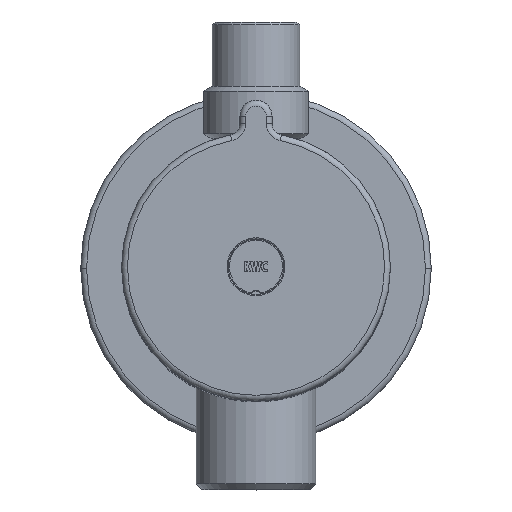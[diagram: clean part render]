
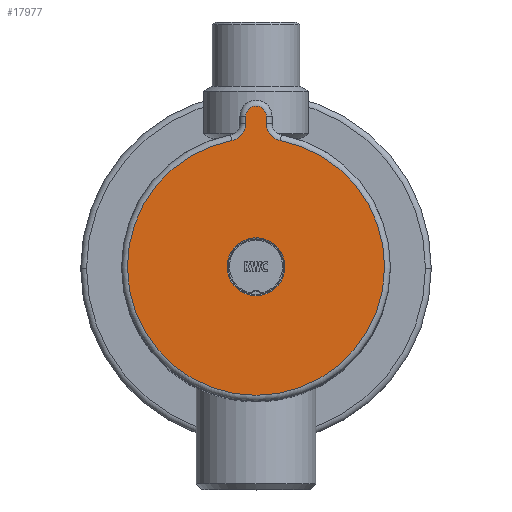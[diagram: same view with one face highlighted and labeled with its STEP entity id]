
A CAD part, top view. The second image highlights one B-rep face of the part: STEP entity #17977.
In plain terms, the highlighted planar face has unit normal (0, 0, 1).
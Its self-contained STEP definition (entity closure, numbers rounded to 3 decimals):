
#13177=CARTESIAN_POINT('',(0.,0.,75.8));
#13178=DIRECTION('',(0.,0.,-1.));
#13179=DIRECTION('',(0.19,0.982,0.));
#13180=AXIS2_PLACEMENT_3D('',#13177,#13178,#13179);
#13182=CARTESIAN_POINT('',(-4.75,24.545,75.8));
#13183=DIRECTION('',(0.,0.,1.));
#13184=DIRECTION('',(0.19,-0.982,0.));
#13185=AXIS2_PLACEMENT_3D('',#13182,#13183,#13184);
#13187=DIRECTION('',(0.,1.,0.));
#13188=VECTOR('',#13187,1.205);
#13189=CARTESIAN_POINT('',(-1.75,24.545,75.8));
#13190=LINE('',#13189,#13188);
#13191=CARTESIAN_POINT('',(0.,25.75,75.8));
#13192=DIRECTION('',(0.,0.,-1.));
#13193=DIRECTION('',(-1.,0.,0.));
#13194=AXIS2_PLACEMENT_3D('',#13191,#13192,#13193);
#13196=DIRECTION('',(0.,-1.,0.));
#13197=VECTOR('',#13196,1.205);
#13198=CARTESIAN_POINT('',(1.75,25.75,75.8));
#13199=LINE('',#13198,#13197);
#13200=CARTESIAN_POINT('',(4.75,24.545,75.8));
#13201=DIRECTION('',(0.,0.,1.));
#13202=DIRECTION('',(-1.,0.,0.));
#13203=AXIS2_PLACEMENT_3D('',#13200,#13201,#13202);
#13205=CARTESIAN_POINT('',(0.,0.,75.8));
#13206=DIRECTION('',(0.,0.,-1.));
#13207=DIRECTION('',(0.,1.,0.));
#13208=AXIS2_PLACEMENT_3D('',#13205,#13206,#13207);
#13210=CARTESIAN_POINT('',(0.,0.,75.8));
#13211=DIRECTION('',(0.,0.,-1.));
#13212=DIRECTION('',(0.,-1.,0.));
#13213=AXIS2_PLACEMENT_3D('',#13210,#13211,#13212);
#17133=CARTESIAN_POINT('',(4.18,21.599,75.8));
#17134=CARTESIAN_POINT('',(-4.18,21.599,75.8));
#17135=VERTEX_POINT('',#17133);
#17136=VERTEX_POINT('',#17134);
#17193=CARTESIAN_POINT('',(0.,4.95,75.8));
#17194=CARTESIAN_POINT('',(0.,-4.95,75.8));
#17195=VERTEX_POINT('',#17193);
#17196=VERTEX_POINT('',#17194);
#17219=CARTESIAN_POINT('',(-1.75,25.75,75.8));
#17220=CARTESIAN_POINT('',(1.75,25.75,75.8));
#17221=VERTEX_POINT('',#17219);
#17222=VERTEX_POINT('',#17220);
#17249=CARTESIAN_POINT('',(-1.75,24.545,75.8));
#17250=VERTEX_POINT('',#17249);
#17253=CARTESIAN_POINT('',(1.75,24.545,75.8));
#17254=VERTEX_POINT('',#17253);
#17953=CARTESIAN_POINT('',(0.,0.,75.8));
#17954=DIRECTION('',(0.,0.,1.));
#17955=DIRECTION('',(0.,-1.,0.));
#17956=AXIS2_PLACEMENT_3D('',#17953,#17954,#17955);
#17957=PLANE('',#17956);
#17959=ORIENTED_EDGE('',*,*,#17958,.T.);
#17961=ORIENTED_EDGE('',*,*,#17960,.T.);
#17963=ORIENTED_EDGE('',*,*,#17962,.T.);
#17965=ORIENTED_EDGE('',*,*,#17964,.T.);
#17967=ORIENTED_EDGE('',*,*,#17966,.T.);
#17969=ORIENTED_EDGE('',*,*,#17968,.T.);
#17970=EDGE_LOOP('',(#17959,#17961,#17963,#17965,#17967,#17969));
#17971=FACE_OUTER_BOUND('',#17970,.F.);
#17973=ORIENTED_EDGE('',*,*,#17972,.F.);
#17974=ORIENTED_EDGE('',*,*,#17936,.F.);
#17975=EDGE_LOOP('',(#17973,#17974));
#17976=FACE_BOUND('',#17975,.F.);
#13181=CIRCLE('',#13180,22.);
#13186=CIRCLE('',#13185,3.);
#13195=CIRCLE('',#13194,1.75);
#13204=CIRCLE('',#13203,3.);
#13209=CIRCLE('',#13208,4.95);
#13214=CIRCLE('',#13213,4.95);
#17936=EDGE_CURVE('',#17196,#17195,#13214,.T.);
#17958=EDGE_CURVE('',#17135,#17136,#13181,.T.);
#17960=EDGE_CURVE('',#17136,#17250,#13186,.T.);
#17962=EDGE_CURVE('',#17250,#17221,#13190,.T.);
#17964=EDGE_CURVE('',#17221,#17222,#13195,.T.);
#17966=EDGE_CURVE('',#17222,#17254,#13199,.T.);
#17968=EDGE_CURVE('',#17254,#17135,#13204,.T.);
#17972=EDGE_CURVE('',#17195,#17196,#13209,.T.);
#17977=ADVANCED_FACE('',(#17971,#17976),#17957,.T.);
